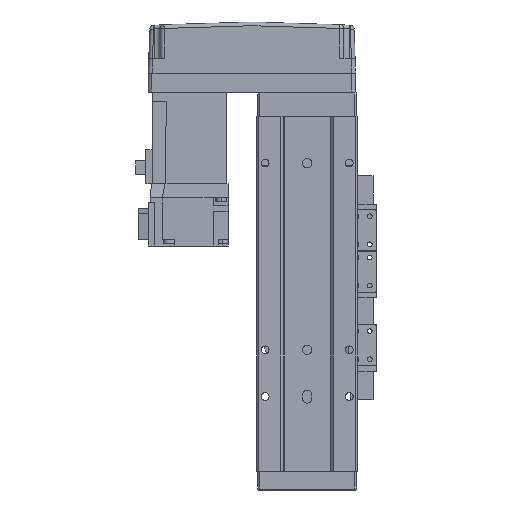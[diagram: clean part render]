
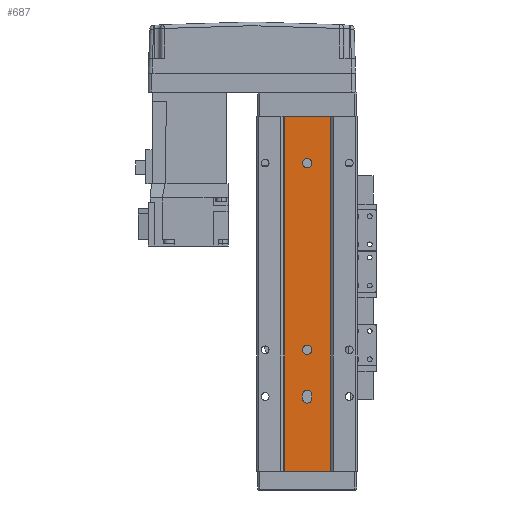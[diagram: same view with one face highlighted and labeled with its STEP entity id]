
A CAD part, front view. The second image highlights one B-rep face of the part: STEP entity #687.
In plain terms, the highlighted planar face has unit normal (0, -1, 0).
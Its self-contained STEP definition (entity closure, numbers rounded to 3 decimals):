
#22 = ORIENTED_EDGE ( 'NONE', *, *, #27308, .F. ) ;
#679 = CARTESIAN_POINT ( 'NONE',  ( -2.5, 1.5, -151. ) ) ;
#687 = ADVANCED_FACE ( 'NONE', ( #6198, #23782, #21544, #9363 ), #16095, .T. ) ;
#860 = VERTEX_POINT ( 'NONE', #13931 ) ;
#897 = EDGE_CURVE ( 'NONE', #19896, #11427, #20593, .T. ) ;
#1392 = CARTESIAN_POINT ( 'NONE',  ( -12.293, 1.5, -190. ) ) ;
#1417 = CARTESIAN_POINT ( 'NONE',  ( 12.293, 1.5, 0. ) ) ;
#1602 = ORIENTED_EDGE ( 'NONE', *, *, #20000, .F. ) ;
#1727 = CARTESIAN_POINT ( 'NONE',  ( 12.293, 1.5, -190. ) ) ;
#2050 = CARTESIAN_POINT ( 'NONE',  ( 0., 1.5, -151. ) ) ;
#2563 = CARTESIAN_POINT ( 'NONE',  ( -12.293, 1.5, -190. ) ) ;
#2878 = AXIS2_PLACEMENT_3D ( 'NONE', #12323, #9072, #35357 ) ;
#2898 = CARTESIAN_POINT ( 'NONE',  ( 12.293, 1.5, -190. ) ) ;
#3119 = DIRECTION ( 'NONE',  ( 0., -1., 0. ) ) ;
#3727 = AXIS2_PLACEMENT_3D ( 'NONE', #2050, #22227, #13918 ) ;
#4117 = VERTEX_POINT ( 'NONE', #1392 ) ;
#4703 = VERTEX_POINT ( 'NONE', #1727 ) ;
#4823 = LINE ( 'NONE', #33451, #11136 ) ;
#4944 = CARTESIAN_POINT ( 'NONE',  ( 12.293, 1.5, -190. ) ) ;
#5494 = EDGE_CURVE ( 'NONE', #35950, #24488, #20624, .T. ) ;
#5685 = CARTESIAN_POINT ( 'NONE',  ( 0., 1.5, -25. ) ) ;
#5783 = ORIENTED_EDGE ( 'NONE', *, *, #897, .F. ) ;
#6198 = FACE_BOUND ( 'NONE', #10255, .T. ) ;
#6225 = EDGE_CURVE ( 'NONE', #4117, #10264, #29136, .T. ) ;
#6244 = CARTESIAN_POINT ( 'NONE',  ( 0., 1.5, -25. ) ) ;
#6865 = CARTESIAN_POINT ( 'NONE',  ( 12.293, 1.5, 0. ) ) ;
#7911 = VECTOR ( 'NONE', #18373, 1000. ) ;
#8335 = AXIS2_PLACEMENT_3D ( 'NONE', #5685, #11638, #37296 ) ;
#8518 = CIRCLE ( 'NONE', #3727, 2.5 ) ;
#9072 = DIRECTION ( 'NONE',  ( 0., -1., 0. ) ) ;
#9363 = FACE_OUTER_BOUND ( 'NONE', #15396, .T. ) ;
#10196 = EDGE_CURVE ( 'NONE', #34355, #23064, #8518, .T. ) ;
#10246 = EDGE_CURVE ( 'NONE', #4703, #14802, #28852, .T. ) ;
#10255 = EDGE_LOOP ( 'NONE', ( #13256, #22, #21521, #14605 ) ) ;
#10264 = VERTEX_POINT ( 'NONE', #36915 ) ;
#10521 = DIRECTION ( 'NONE',  ( 0., -1., 0. ) ) ;
#10824 = DIRECTION ( 'NONE',  ( 0., 0., -1. ) ) ;
#11136 = VECTOR ( 'NONE', #33324, 1000. ) ;
#11427 = VERTEX_POINT ( 'NONE', #33675 ) ;
#11638 = DIRECTION ( 'NONE',  ( 0., -1., 0. ) ) ;
#12323 = CARTESIAN_POINT ( 'NONE',  ( 0., 1.5, -149. ) ) ;
#12912 = AXIS2_PLACEMENT_3D ( 'NONE', #16841, #10521, #19562 ) ;
#13163 = AXIS2_PLACEMENT_3D ( 'NONE', #30882, #16644, #13614 ) ;
#13256 = ORIENTED_EDGE ( 'NONE', *, *, #10196, .F. ) ;
#13614 = DIRECTION ( 'NONE',  ( 1., 0., 0. ) ) ;
#13870 = CARTESIAN_POINT ( 'NONE',  ( 2.5, 1.5, -149. ) ) ;
#13918 = DIRECTION ( 'NONE',  ( 1., 0., 0. ) ) ;
#13931 = CARTESIAN_POINT ( 'NONE',  ( -2.5, 1.5, -149. ) ) ;
#14605 = ORIENTED_EDGE ( 'NONE', *, *, #25839, .F. ) ;
#14742 = DIRECTION ( 'NONE',  ( 1., 0., 0. ) ) ;
#14802 = VERTEX_POINT ( 'NONE', #1417 ) ;
#14912 = CARTESIAN_POINT ( 'NONE',  ( 2.5, 1.5, -25. ) ) ;
#15396 = EDGE_LOOP ( 'NONE', ( #30665, #34946, #31351, #29751 ) ) ;
#16095 = PLANE ( 'NONE',  #17530 ) ;
#16644 = DIRECTION ( 'NONE',  ( 0., -1., 0. ) ) ;
#16829 = DIRECTION ( 'NONE',  ( 0., 0., 1. ) ) ;
#16841 = CARTESIAN_POINT ( 'NONE',  ( 0., 1.5, -125. ) ) ;
#17530 = AXIS2_PLACEMENT_3D ( 'NONE', #36336, #19228, #36712 ) ;
#17953 = EDGE_CURVE ( 'NONE', #36381, #860, #31466, .T. ) ;
#18373 = DIRECTION ( 'NONE',  ( 1., 0., 0. ) ) ;
#19207 = LINE ( 'NONE', #6865, #7911 ) ;
#19228 = DIRECTION ( 'NONE',  ( 0., -1., 0. ) ) ;
#19471 = LINE ( 'NONE', #33638, #25838 ) ;
#19562 = DIRECTION ( 'NONE',  ( 1., 0., 0. ) ) ;
#19896 = VERTEX_POINT ( 'NONE', #21667 ) ;
#20000 = EDGE_CURVE ( 'NONE', #11427, #19896, #37286, .T. ) ;
#20593 = CIRCLE ( 'NONE', #12912, 2.5 ) ;
#20624 = CIRCLE ( 'NONE', #8335, 2.5 ) ;
#20937 = VECTOR ( 'NONE', #14742, 1000. ) ;
#21072 = CARTESIAN_POINT ( 'NONE',  ( 2.5, 1.5, -151. ) ) ;
#21521 = ORIENTED_EDGE ( 'NONE', *, *, #17953, .F. ) ;
#21544 = FACE_BOUND ( 'NONE', #30982, .T. ) ;
#21667 = CARTESIAN_POINT ( 'NONE',  ( 2.5, 1.5, -125. ) ) ;
#22222 = EDGE_CURVE ( 'NONE', #24488, #35950, #27538, .T. ) ;
#22227 = DIRECTION ( 'NONE',  ( 0., -1., 0. ) ) ;
#22335 = VECTOR ( 'NONE', #33721, 1000. ) ;
#23064 = VERTEX_POINT ( 'NONE', #21072 ) ;
#23640 = DIRECTION ( 'NONE',  ( 1., 0., 0. ) ) ;
#23782 = FACE_BOUND ( 'NONE', #26319, .T. ) ;
#24488 = VERTEX_POINT ( 'NONE', #34175 ) ;
#25838 = VECTOR ( 'NONE', #10824, 1000. ) ;
#25839 = EDGE_CURVE ( 'NONE', #23064, #36381, #4823, .T. ) ;
#26319 = EDGE_LOOP ( 'NONE', ( #5783, #1602 ) ) ;
#27308 = EDGE_CURVE ( 'NONE', #860, #34355, #19471, .T. ) ;
#27538 = CIRCLE ( 'NONE', #28043, 2.5 ) ;
#28043 = AXIS2_PLACEMENT_3D ( 'NONE', #6244, #3119, #23640 ) ;
#28720 = EDGE_CURVE ( 'NONE', #4117, #4703, #36342, .T. ) ;
#28852 = LINE ( 'NONE', #4944, #30650 ) ;
#29136 = LINE ( 'NONE', #2563, #22335 ) ;
#29751 = ORIENTED_EDGE ( 'NONE', *, *, #10246, .T. ) ;
#30650 = VECTOR ( 'NONE', #16829, 1000. ) ;
#30665 = ORIENTED_EDGE ( 'NONE', *, *, #36593, .F. ) ;
#30882 = CARTESIAN_POINT ( 'NONE',  ( 0., 1.5, -125. ) ) ;
#30982 = EDGE_LOOP ( 'NONE', ( #32010, #37210 ) ) ;
#31351 = ORIENTED_EDGE ( 'NONE', *, *, #28720, .T. ) ;
#31466 = CIRCLE ( 'NONE', #2878, 2.5 ) ;
#32010 = ORIENTED_EDGE ( 'NONE', *, *, #5494, .F. ) ;
#33324 = DIRECTION ( 'NONE',  ( 0., 0., 1. ) ) ;
#33451 = CARTESIAN_POINT ( 'NONE',  ( 2.5, 1.5, -190. ) ) ;
#33638 = CARTESIAN_POINT ( 'NONE',  ( -2.5, 1.5, -190. ) ) ;
#33675 = CARTESIAN_POINT ( 'NONE',  ( -2.5, 1.5, -125. ) ) ;
#33721 = DIRECTION ( 'NONE',  ( 0., 0., 1. ) ) ;
#34175 = CARTESIAN_POINT ( 'NONE',  ( -2.5, 1.5, -25. ) ) ;
#34355 = VERTEX_POINT ( 'NONE', #679 ) ;
#34946 = ORIENTED_EDGE ( 'NONE', *, *, #6225, .F. ) ;
#35357 = DIRECTION ( 'NONE',  ( 1., 0., 0. ) ) ;
#35950 = VERTEX_POINT ( 'NONE', #14912 ) ;
#36336 = CARTESIAN_POINT ( 'NONE',  ( 12.293, 1.5, -190. ) ) ;
#36342 = LINE ( 'NONE', #2898, #20937 ) ;
#36381 = VERTEX_POINT ( 'NONE', #13870 ) ;
#36593 = EDGE_CURVE ( 'NONE', #10264, #14802, #19207, .T. ) ;
#36712 = DIRECTION ( 'NONE',  ( 1., 0., 0. ) ) ;
#36915 = CARTESIAN_POINT ( 'NONE',  ( -12.293, 1.5, 0. ) ) ;
#37210 = ORIENTED_EDGE ( 'NONE', *, *, #22222, .F. ) ;
#37286 = CIRCLE ( 'NONE', #13163, 2.5 ) ;
#37296 = DIRECTION ( 'NONE',  ( 1., 0., 0. ) ) ;
